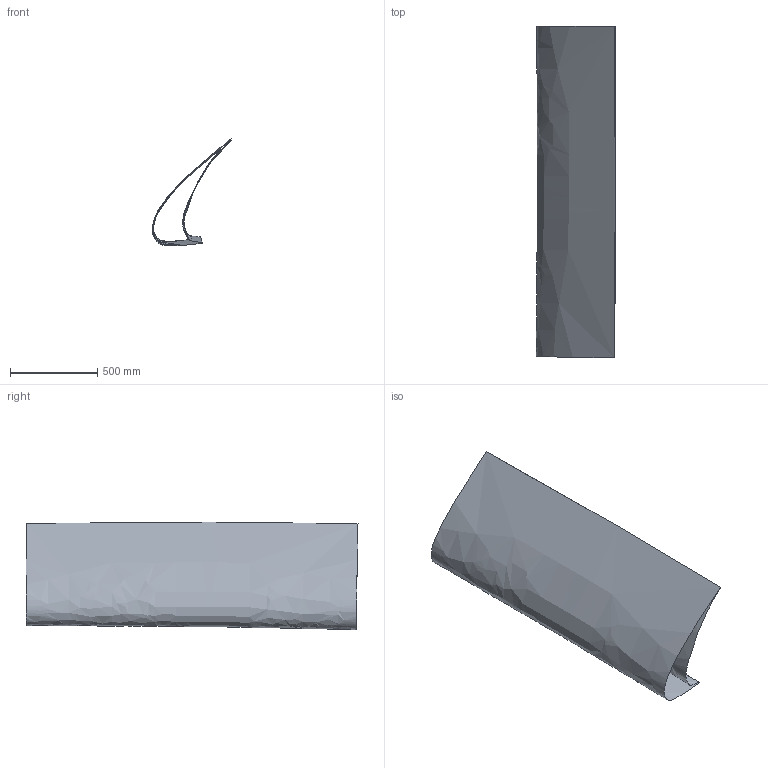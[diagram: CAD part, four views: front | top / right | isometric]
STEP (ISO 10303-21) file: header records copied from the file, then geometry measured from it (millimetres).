
FILE_DESCRIPTION((''),'2;1');
FILE_NAME('','2022-05-11T22:06:04',(''),(''),'','CADfix','');
FILE_SCHEMA(('AUTOMOTIVE_DESIGN { 1 0 10303 214 1 1 1 1 }'));
Length unit declared in the file: inch
Bounding box: 454.58 x 1906.94 x 618.38 mm (x, y, z)
Surface area: 3347069.4 mm2 (no closed solid volume)
Topology: 0 solids, 0 shells, 2 faces, 8 edges, 8 vertices
Faces by surface type: bspline 2
Entity records: 15193 total; most frequent: CARTESIAN_POINT 15172, B_SPLINE_SURFACE_WITH_KNOTS 2, DIMENSIONAL_EXPONENTS 2, PLANE_ANGLE_MEASURE_WITH_UNIT 1, LENGTH_MEASURE_WITH_UNIT 1, UNCERTAINTY_MEASURE_WITH_UNIT 1, GEOMETRIC_SET 1, GEOMETRICALLY_BOUNDED_SURFACE_SHAPE_REPRESENTATION 1
